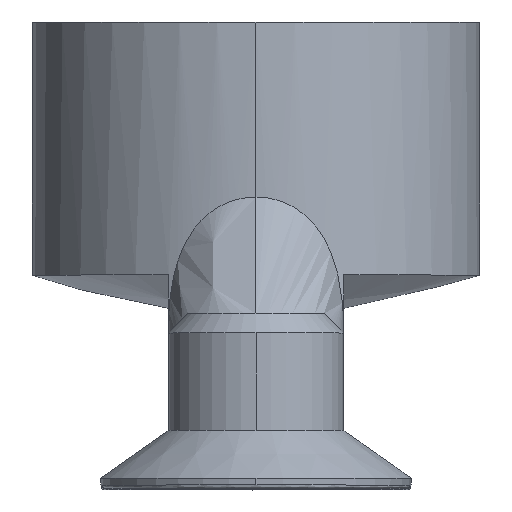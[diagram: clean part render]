
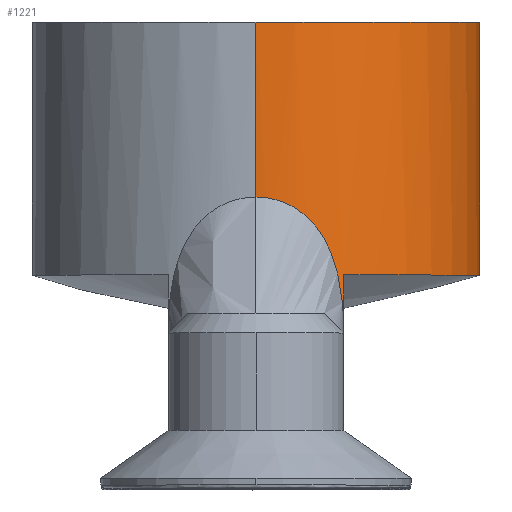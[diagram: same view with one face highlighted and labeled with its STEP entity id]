
A CAD part, top view. The second image highlights one B-rep face of the part: STEP entity #1221.
In plain terms, the highlighted cylindrical face has radius 5.75 mm (diameter 11.5 mm), a partial arc.
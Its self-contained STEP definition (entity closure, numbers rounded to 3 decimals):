
#64 = EDGE_CURVE ( 'NONE', #820, #1366, #1106, .T. ) ;
#74 = CARTESIAN_POINT ( 'NONE',  ( 2.25, 4.131, -5.292 ) ) ;
#93 = CARTESIAN_POINT ( 'NONE',  ( 0., 12., 0. ) ) ;
#97 = EDGE_CURVE ( 'NONE', #869, #1366, #1398, .T. ) ;
#100 = EDGE_CURVE ( 'NONE', #792, #820, #398, .T. ) ;
#101 = EDGE_CURVE ( 'NONE', #175, #1203, #649, .T. ) ;
#112 = ORIENTED_EDGE ( 'NONE', *, *, #97, .T. ) ;
#156 = CARTESIAN_POINT ( 'NONE',  ( 0.942, 7.26, 5.673 ) ) ;
#168 = DIRECTION ( 'NONE',  ( 0., 0., -1. ) ) ;
#175 = VERTEX_POINT ( 'NONE', #1385 ) ;
#214 = CARTESIAN_POINT ( 'NONE',  ( 2.25, 4.131, -5.292 ) ) ;
#225 = CARTESIAN_POINT ( 'NONE',  ( 0.767, 7.346, 5.699 ) ) ;
#230 = CARTESIAN_POINT ( 'NONE',  ( 0.674, 7.383, 5.711 ) ) ;
#234 = CARTESIAN_POINT ( 'NONE',  ( 2.25, 4.512, -5.292 ) ) ;
#240 = CARTESIAN_POINT ( 'NONE',  ( 0.199, 7.5, 5.75 ) ) ;
#253 = CARTESIAN_POINT ( 'NONE',  ( 2.224, 4.889, -5.303 ) ) ;
#256 = CARTESIAN_POINT ( 'NONE',  ( 0.394, 7.47, 5.74 ) ) ;
#257 = CARTESIAN_POINT ( 'NONE',  ( 2.091, 5.63, -5.357 ) ) ;
#259 = CARTESIAN_POINT ( 'NONE',  ( 1.406, 6.912, 5.577 ) ) ;
#262 = CARTESIAN_POINT ( 'NONE',  ( 1.983, 6., -5.4 ) ) ;
#267 = VERTEX_POINT ( 'NONE', #872 ) ;
#268 = VECTOR ( 'NONE', #1177, 1000. ) ;
#286 = CARTESIAN_POINT ( 'NONE',  ( 1.723, 6.499, -5.487 ) ) ;
#292 = CARTESIAN_POINT ( 'NONE',  ( 1.618, 6.659, -5.519 ) ) ;
#301 = CARTESIAN_POINT ( 'NONE',  ( 1.374, 6.944, -5.585 ) ) ;
#303 = CARTESIAN_POINT ( 'NONE',  ( 1.233, 7.072, -5.619 ) ) ;
#306 = CARTESIAN_POINT ( 'NONE',  ( 0.918, 7.281, -5.678 ) ) ;
#312 = CARTESIAN_POINT ( 'NONE',  ( 0.746, 7.362, -5.704 ) ) ;
#322 = CARTESIAN_POINT ( 'NONE',  ( 0., 7.5, -5.75 ) ) ;
#336 = CARTESIAN_POINT ( 'NONE',  ( 0.381, 7.472, -5.74 ) ) ;
#337 = AXIS2_PLACEMENT_3D ( 'NONE', #93, #587, #1614 ) ;
#348 = CARTESIAN_POINT ( 'NONE',  ( 0., 7.5, -5.75 ) ) ;
#360 = DIRECTION ( 'NONE',  ( 0., -1., 0. ) ) ;
#374 = CARTESIAN_POINT ( 'NONE',  ( 0., 12., 5.75 ) ) ;
#398 = LINE ( 'NONE', #1289, #268 ) ;
#424 = DIRECTION ( 'NONE',  ( 0., -1., 0. ) ) ;
#425 = EDGE_LOOP ( 'NONE', ( #1243, #1216, #852, #488, #877, #112, #763, #541 ) ) ;
#426 = CARTESIAN_POINT ( 'NONE',  ( 0.193, 7.5, -5.75 ) ) ;
#446 = FACE_OUTER_BOUND ( 'NONE', #425, .T. ) ;
#456 = CARTESIAN_POINT ( 'NONE',  ( 0., 5.5, 0. ) ) ;
#482 = CARTESIAN_POINT ( 'NONE',  ( 0., 12., 0. ) ) ;
#487 = VECTOR ( 'NONE', #424, 1000. ) ;
#488 = ORIENTED_EDGE ( 'NONE', *, *, #101, .T. ) ;
#498 = CARTESIAN_POINT ( 'NONE',  ( 2.25, 5.5, -5.292 ) ) ;
#511 = CIRCLE ( 'NONE', #858, 5.75 ) ;
#541 = ORIENTED_EDGE ( 'NONE', *, *, #100, .F. ) ;
#587 = DIRECTION ( 'NONE',  ( 0., -1., 0. ) ) ;
#599 = CARTESIAN_POINT ( 'NONE',  ( 0., 7.5, 5.75 ) ) ;
#649 = LINE ( 'NONE', #1159, #1350 ) ;
#656 = CARTESIAN_POINT ( 'NONE',  ( 2.248, 4.392, 5.292 ) ) ;
#696 = VECTOR ( 'NONE', #360, 1000. ) ;
#710 = CARTESIAN_POINT ( 'NONE',  ( 2.25, 5.5, 5.292 ) ) ;
#756 = VERTEX_POINT ( 'NONE', #599 ) ;
#763 = ORIENTED_EDGE ( 'NONE', *, *, #64, .F. ) ;
#792 = VERTEX_POINT ( 'NONE', #1207 ) ;
#820 = VERTEX_POINT ( 'NONE', #348 ) ;
#852 = ORIENTED_EDGE ( 'NONE', *, *, #1770, .F. ) ;
#858 = AXIS2_PLACEMENT_3D ( 'NONE', #456, #1302, #168 ) ;
#869 = VERTEX_POINT ( 'NONE', #498 ) ;
#872 = CARTESIAN_POINT ( 'NONE',  ( 0., 12., 5.75 ) ) ;
#877 = ORIENTED_EDGE ( 'NONE', *, *, #963, .F. ) ;
#926 = EDGE_CURVE ( 'NONE', #267, #792, #1165, .T. ) ;
#946 = AXIS2_PLACEMENT_3D ( 'NONE', #482, #1364, #1158 ) ;
#963 = EDGE_CURVE ( 'NONE', #869, #1203, #511, .T. ) ;
#965 = CARTESIAN_POINT ( 'NONE',  ( 2.011, 5.924, 5.39 ) ) ;
#1052 = DIRECTION ( 'NONE',  ( 0., 1., 0. ) ) ;
#1106 = B_SPLINE_CURVE_WITH_KNOTS ( 'NONE', 3,
 ( #322, #426, #336, #312, #306, #303, #301, #292, #286, #262, #257, #253, #234, #214 ),
 .UNSPECIFIED., .F., .F.,
 ( 4, 2, 2, 2, 2, 2, 4 ),
 ( 0., 0.001, 0.001, 0.002, 0.002, 0.003, 0.005 ),
 .UNSPECIFIED. ) ;
#1138 = CARTESIAN_POINT ( 'NONE',  ( 0., 7.5, 5.75 ) ) ;
#1158 = DIRECTION ( 'NONE',  ( 0., 0., -1. ) ) ;
#1159 = CARTESIAN_POINT ( 'NONE',  ( 2.25, 3.512, 5.292 ) ) ;
#1165 = CIRCLE ( 'NONE', #946, 5.75 ) ;
#1177 = DIRECTION ( 'NONE',  ( 0., -1., 0. ) ) ;
#1191 = LINE ( 'NONE', #374, #487 ) ;
#1203 = VERTEX_POINT ( 'NONE', #710 ) ;
#1207 = CARTESIAN_POINT ( 'NONE',  ( 0., 12., -5.75 ) ) ;
#1216 = ORIENTED_EDGE ( 'NONE', *, *, #1631, .T. ) ;
#1221 = ADVANCED_FACE ( 'NONE', ( #446 ), #1489, .T. ) ;
#1243 = ORIENTED_EDGE ( 'NONE', *, *, #926, .F. ) ;
#1289 = CARTESIAN_POINT ( 'NONE',  ( 0., 12., -5.75 ) ) ;
#1302 = DIRECTION ( 'NONE',  ( 0., -1., 0. ) ) ;
#1350 = VECTOR ( 'NONE', #1052, 1000. ) ;
#1364 = DIRECTION ( 'NONE',  ( 0., 1., 0. ) ) ;
#1366 = VERTEX_POINT ( 'NONE', #74 ) ;
#1367 = CARTESIAN_POINT ( 'NONE',  ( 1.025, 7.212, 5.659 ) ) ;
#1379 = CARTESIAN_POINT ( 'NONE',  ( 2.25, 4.196, 5.292 ) ) ;
#1385 = CARTESIAN_POINT ( 'NONE',  ( 2.25, 4., 5.292 ) ) ;
#1398 = LINE ( 'NONE', #1572, #696 ) ;
#1414 = CARTESIAN_POINT ( 'NONE',  ( 2.111, 5.553, 5.349 ) ) ;
#1489 = CYLINDRICAL_SURFACE ( 'NONE', #337, 5.75 ) ;
#1501 = CARTESIAN_POINT ( 'NONE',  ( 1.651, 6.613, 5.509 ) ) ;
#1548 = B_SPLINE_CURVE_WITH_KNOTS ( 'NONE', 3,
 ( #1808, #1379, #656, #1654, #1699, #1414, #965, #1558, #1501, #259, #1855, #1367, #156, #225, #230, #256, #240, #1138 ),
 .UNSPECIFIED., .F., .F.,
 ( 4, 2, 2, 2, 2, 2, 2, 2, 4 ),
 ( 0., 0.001, 0.001, 0.002, 0.003, 0.004, 0.004, 0.004, 0.005 ),
 .UNSPECIFIED. ) ;
#1558 = CARTESIAN_POINT ( 'NONE',  ( 1.754, 6.447, 5.477 ) ) ;
#1572 = CARTESIAN_POINT ( 'NONE',  ( 2.25, 3.512, -5.292 ) ) ;
#1614 = DIRECTION ( 'NONE',  ( 0., 0., -1. ) ) ;
#1631 = EDGE_CURVE ( 'NONE', #267, #756, #1191, .T. ) ;
#1654 = CARTESIAN_POINT ( 'NONE',  ( 2.224, 4.782, 5.302 ) ) ;
#1699 = CARTESIAN_POINT ( 'NONE',  ( 2.204, 4.978, 5.311 ) ) ;
#1770 = EDGE_CURVE ( 'NONE', #175, #756, #1548, .T. ) ;
#1808 = CARTESIAN_POINT ( 'NONE',  ( 2.25, 4., 5.292 ) ) ;
#1855 = CARTESIAN_POINT ( 'NONE',  ( 1.262, 7.047, 5.612 ) ) ;
